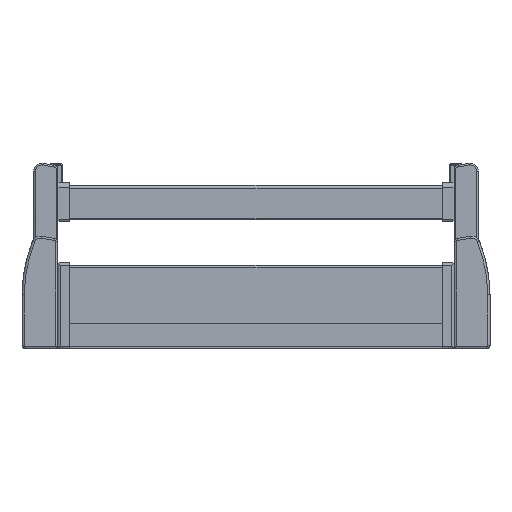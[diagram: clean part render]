
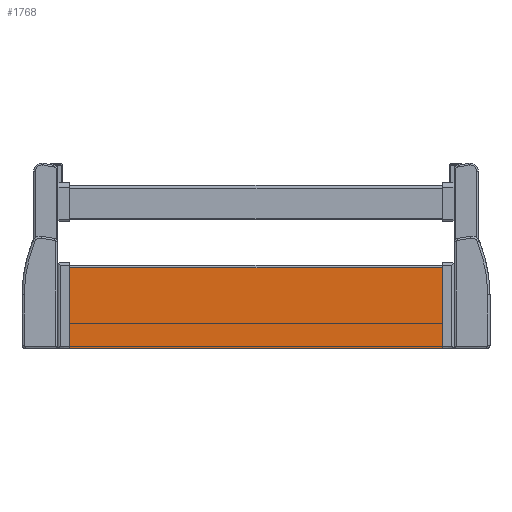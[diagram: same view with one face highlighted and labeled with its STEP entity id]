
A CAD part, top view. The second image highlights one B-rep face of the part: STEP entity #1768.
In plain terms, the highlighted planar face has unit normal (0, 0, 1).
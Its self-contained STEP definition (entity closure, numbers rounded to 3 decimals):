
#1423 = VERTEX_POINT ( 'NONE', #4539 ) ;
#1425 = EDGE_CURVE ( 'NONE', #1426, #1423, #4538, .T. ) ;
#1426 = VERTEX_POINT ( 'NONE', #4534 ) ;
#1649 = EDGE_CURVE ( 'NONE', #1729, #1786, #5206, .T. ) ;
#1728 = EDGE_CURVE ( 'NONE', #1426, #1729, #5425, .T. ) ;
#1729 = VERTEX_POINT ( 'NONE', #5373 ) ;
#1730 = ORIENTED_EDGE ( 'NONE', *, *, #1649, .F. ) ;
#1768 = ADVANCED_FACE ( 'NONE', ( #5326 ), #5325, .F. ) ;
#1781 = ORIENTED_EDGE ( 'NONE', *, *, #1728, .F. ) ;
#1782 = EDGE_LOOP ( 'NONE', ( #1781, #1783, #1784, #1730 ) ) ;
#1783 = ORIENTED_EDGE ( 'NONE', *, *, #1425, .T. ) ;
#1784 = ORIENTED_EDGE ( 'NONE', *, *, #1785, .T. ) ;
#1785 = EDGE_CURVE ( 'NONE', #1423, #1786, #5290, .T. ) ;
#1786 = VERTEX_POINT ( 'NONE', #5284 ) ;
#4534 = CARTESIAN_POINT ( 'NONE',  ( 160.8, -92.5, 1.4 ) ) ;
#4535 = DIRECTION ( 'NONE',  ( 0., 1., 0. ) ) ;
#4536 = VECTOR ( 'NONE', #4535, 1000. ) ;
#4537 = CARTESIAN_POINT ( 'NONE',  ( 160.8, -92.5, 1.4 ) ) ;
#4538 = LINE ( 'NONE', #4537, #4536 ) ;
#4539 = CARTESIAN_POINT ( 'NONE',  ( 160.8, -23., 1.4 ) ) ;
#5203 = DIRECTION ( 'NONE',  ( 0., 1., 0. ) ) ;
#5204 = VECTOR ( 'NONE', #5203, 1000. ) ;
#5205 = CARTESIAN_POINT ( 'NONE',  ( -160.8, -92.5, 1.4 ) ) ;
#5206 = LINE ( 'NONE', #5205, #5204 ) ;
#5284 = CARTESIAN_POINT ( 'NONE',  ( -160.8, -23., 1.4 ) ) ;
#5285 = DIRECTION ( 'NONE',  ( -1., 0., 0. ) ) ;
#5287 = VECTOR ( 'NONE', #5285, 1000. ) ;
#5289 = CARTESIAN_POINT ( 'NONE',  ( 234.556, -23., 1.4 ) ) ;
#5290 = LINE ( 'NONE', #5289, #5287 ) ;
#5316 = DIRECTION ( 'NONE',  ( 0., 1., 0. ) ) ;
#5317 = DIRECTION ( 'NONE',  ( 0., 0., -1. ) ) ;
#5318 = CARTESIAN_POINT ( 'NONE',  ( 234.556, -92.5, 1.4 ) ) ;
#5324 = AXIS2_PLACEMENT_3D ( 'NONE', #5318, #5317, #5316 ) ;
#5325 = PLANE ( 'NONE',  #5324 ) ;
#5326 = FACE_OUTER_BOUND ( 'NONE', #1782, .T. ) ;
#5373 = CARTESIAN_POINT ( 'NONE',  ( -160.8, -92.5, 1.4 ) ) ;
#5419 = DIRECTION ( 'NONE',  ( -1., 0., 0. ) ) ;
#5421 = VECTOR ( 'NONE', #5419, 1000. ) ;
#5423 = CARTESIAN_POINT ( 'NONE',  ( 234.556, -92.5, 1.4 ) ) ;
#5425 = LINE ( 'NONE', #5423, #5421 ) ;
